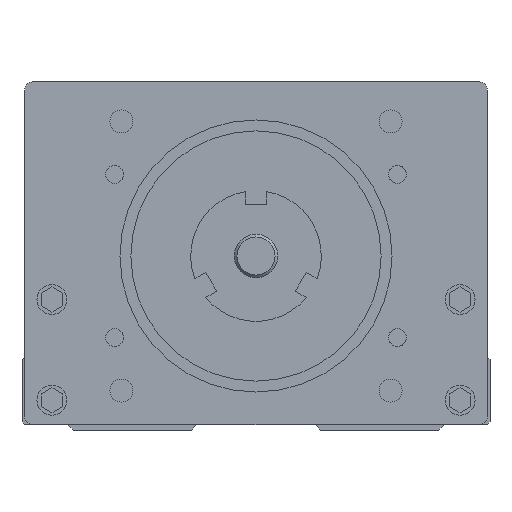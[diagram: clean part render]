
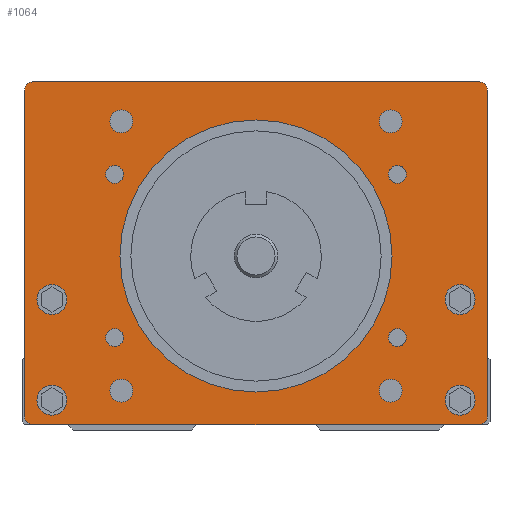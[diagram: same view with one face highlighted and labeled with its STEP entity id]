
A CAD part, front view. The second image highlights one B-rep face of the part: STEP entity #1064.
In plain terms, the highlighted planar face has unit normal (0, -1, 0).
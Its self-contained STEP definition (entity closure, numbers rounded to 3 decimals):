
#1064=ADVANCED_FACE('',(#2270,#2271,#2272,#2273,#2274,#2275,#2276,#2277,
#2278,#2279,#2280,#2281,#2282,#2283),#1575,.F.);
#1575=PLANE('',#9210);
#1914=CIRCLE('',#9182,1.5);
#1921=CIRCLE('',#9193,1.5);
#1922=CIRCLE('',#9195,1.5);
#1923=CIRCLE('',#9196,1.5);
#1924=CIRCLE('',#9197,2.75);
#1925=CIRCLE('',#9198,2.75);
#1926=CIRCLE('',#9199,2.75);
#1927=CIRCLE('',#9200,2.75);
#1928=CIRCLE('',#9201,25.);
#1929=CIRCLE('',#9202,1.65);
#1930=CIRCLE('',#9203,1.65);
#1931=CIRCLE('',#9204,1.65);
#1932=CIRCLE('',#9205,1.65);
#1933=CIRCLE('',#9206,2.1);
#1934=CIRCLE('',#9207,2.1);
#1935=CIRCLE('',#9208,2.1);
#1936=CIRCLE('',#9209,2.1);
#2270=FACE_BOUND('',#2702,.T.);
#2271=FACE_BOUND('',#2703,.T.);
#2272=FACE_BOUND('',#2704,.T.);
#2273=FACE_BOUND('',#2705,.T.);
#2274=FACE_BOUND('',#2706,.T.);
#2275=FACE_BOUND('',#2707,.T.);
#2276=FACE_BOUND('',#2708,.T.);
#2277=FACE_BOUND('',#2709,.T.);
#2278=FACE_BOUND('',#2710,.T.);
#2279=FACE_BOUND('',#2711,.T.);
#2280=FACE_BOUND('',#2712,.T.);
#2281=FACE_BOUND('',#2713,.T.);
#2282=FACE_BOUND('',#2714,.T.);
#2283=FACE_BOUND('',#2715,.T.);
#2702=EDGE_LOOP('',(#3761,#3762,#3763,#3764,#3765,#3766,#3767,#3768));
#2703=EDGE_LOOP('',(#3769));
#2704=EDGE_LOOP('',(#3770));
#2705=EDGE_LOOP('',(#3771));
#2706=EDGE_LOOP('',(#3772));
#2707=EDGE_LOOP('',(#3773));
#2708=EDGE_LOOP('',(#3774));
#2709=EDGE_LOOP('',(#3775));
#2710=EDGE_LOOP('',(#3776));
#2711=EDGE_LOOP('',(#3777));
#2712=EDGE_LOOP('',(#3778));
#2713=EDGE_LOOP('',(#3779));
#2714=EDGE_LOOP('',(#3780));
#2715=EDGE_LOOP('',(#3781));
#3761=ORIENTED_EDGE('',*,*,#6487,.T.);
#3762=ORIENTED_EDGE('',*,*,#6744,.F.);
#3763=ORIENTED_EDGE('',*,*,#6705,.T.);
#3764=ORIENTED_EDGE('',*,*,#6743,.F.);
#3765=ORIENTED_EDGE('',*,*,#6730,.T.);
#3766=ORIENTED_EDGE('',*,*,#6728,.F.);
#3767=ORIENTED_EDGE('',*,*,#6720,.T.);
#3768=ORIENTED_EDGE('',*,*,#6745,.F.);
#3769=ORIENTED_EDGE('',*,*,#6746,.F.);
#3770=ORIENTED_EDGE('',*,*,#6747,.F.);
#3771=ORIENTED_EDGE('',*,*,#6748,.F.);
#3772=ORIENTED_EDGE('',*,*,#6749,.F.);
#3773=ORIENTED_EDGE('',*,*,#6750,.F.);
#3774=ORIENTED_EDGE('',*,*,#6751,.F.);
#3775=ORIENTED_EDGE('',*,*,#6752,.F.);
#3776=ORIENTED_EDGE('',*,*,#6753,.F.);
#3777=ORIENTED_EDGE('',*,*,#6754,.F.);
#3778=ORIENTED_EDGE('',*,*,#6755,.F.);
#3779=ORIENTED_EDGE('',*,*,#6756,.F.);
#3780=ORIENTED_EDGE('',*,*,#6757,.F.);
#3781=ORIENTED_EDGE('',*,*,#6758,.F.);
#5686=VERTEX_POINT('',#12609);
#5687=VERTEX_POINT('',#12611);
#5852=VERTEX_POINT('',#13106);
#5853=VERTEX_POINT('',#13108);
#5866=VERTEX_POINT('',#13138);
#5867=VERTEX_POINT('',#13140);
#5871=VERTEX_POINT('',#13156);
#5872=VERTEX_POINT('',#13160);
#5882=VERTEX_POINT('',#13190);
#5883=VERTEX_POINT('',#13192);
#5884=VERTEX_POINT('',#13194);
#5885=VERTEX_POINT('',#13196);
#5886=VERTEX_POINT('',#13198);
#5887=VERTEX_POINT('',#13200);
#5888=VERTEX_POINT('',#13202);
#5889=VERTEX_POINT('',#13204);
#5890=VERTEX_POINT('',#13206);
#5891=VERTEX_POINT('',#13208);
#5892=VERTEX_POINT('',#13210);
#5893=VERTEX_POINT('',#13212);
#5894=VERTEX_POINT('',#13214);
#6487=EDGE_CURVE('',#5687,#5686,#7632,.T.);
#6705=EDGE_CURVE('',#5853,#5852,#7772,.T.);
#6720=EDGE_CURVE('',#5867,#5866,#7783,.T.);
#6728=EDGE_CURVE('',#5867,#5871,#1914,.T.);
#6730=EDGE_CURVE('',#5872,#5871,#7788,.T.);
#6743=EDGE_CURVE('',#5872,#5852,#1921,.T.);
#6744=EDGE_CURVE('',#5853,#5686,#1922,.T.);
#6745=EDGE_CURVE('',#5687,#5866,#1923,.T.);
#6746=EDGE_CURVE('',#5882,#5882,#1924,.T.);
#6747=EDGE_CURVE('',#5883,#5883,#1925,.T.);
#6748=EDGE_CURVE('',#5884,#5884,#1926,.T.);
#6749=EDGE_CURVE('',#5885,#5885,#1927,.T.);
#6750=EDGE_CURVE('',#5886,#5886,#1928,.T.);
#6751=EDGE_CURVE('',#5887,#5887,#1929,.T.);
#6752=EDGE_CURVE('',#5888,#5888,#1930,.T.);
#6753=EDGE_CURVE('',#5889,#5889,#1931,.T.);
#6754=EDGE_CURVE('',#5890,#5890,#1932,.T.);
#6755=EDGE_CURVE('',#5891,#5891,#1933,.T.);
#6756=EDGE_CURVE('',#5892,#5892,#1934,.T.);
#6757=EDGE_CURVE('',#5893,#5893,#1935,.T.);
#6758=EDGE_CURVE('',#5894,#5894,#1936,.T.);
#7632=LINE('',#12610,#8359);
#7772=LINE('',#13107,#8499);
#7783=LINE('',#13139,#8510);
#7788=LINE('',#13159,#8515);
#8359=VECTOR('',#10014,1.);
#8499=VECTOR('',#10360,1.);
#8510=VECTOR('',#10385,1.);
#8515=VECTOR('',#10410,1.);
#9182=AXIS2_PLACEMENT_3D('',#13155,#10405,#10406);
#9193=AXIS2_PLACEMENT_3D('',#13185,#10435,#10436);
#9195=AXIS2_PLACEMENT_3D('',#13187,#10439,#10440);
#9196=AXIS2_PLACEMENT_3D('',#13188,#10441,#10442);
#9197=AXIS2_PLACEMENT_3D('',#13189,#10443,#10444);
#9198=AXIS2_PLACEMENT_3D('',#13191,#10445,#10446);
#9199=AXIS2_PLACEMENT_3D('',#13193,#10447,#10448);
#9200=AXIS2_PLACEMENT_3D('',#13195,#10449,#10450);
#9201=AXIS2_PLACEMENT_3D('',#13197,#10451,#10452);
#9202=AXIS2_PLACEMENT_3D('',#13199,#10453,#10454);
#9203=AXIS2_PLACEMENT_3D('',#13201,#10455,#10456);
#9204=AXIS2_PLACEMENT_3D('',#13203,#10457,#10458);
#9205=AXIS2_PLACEMENT_3D('',#13205,#10459,#10460);
#9206=AXIS2_PLACEMENT_3D('',#13207,#10461,#10462);
#9207=AXIS2_PLACEMENT_3D('',#13209,#10463,#10464);
#9208=AXIS2_PLACEMENT_3D('',#13211,#10465,#10466);
#9209=AXIS2_PLACEMENT_3D('',#13213,#10467,#10468);
#9210=AXIS2_PLACEMENT_3D('',#13215,#10469,#10470);
#10014=DIRECTION('',(1.,0.,0.));
#10360=DIRECTION('',(0.,0.,1.));
#10385=DIRECTION('',(0.,0.,-1.));
#10405=DIRECTION('',(0.,1.,0.));
#10406=DIRECTION('',(-1.,0.,0.));
#10410=DIRECTION('',(-1.,0.,0.));
#10435=DIRECTION('',(0.,1.,0.));
#10436=DIRECTION('',(0.,0.,1.));
#10439=DIRECTION('',(0.,1.,0.));
#10440=DIRECTION('',(1.,0.,0.));
#10441=DIRECTION('',(0.,1.,0.));
#10442=DIRECTION('',(0.,0.,-1.));
#10443=DIRECTION('',(0.,-1.,0.));
#10444=DIRECTION('',(0.,0.,1.));
#10445=DIRECTION('',(0.,-1.,0.));
#10446=DIRECTION('',(0.,0.,1.));
#10447=DIRECTION('',(0.,-1.,0.));
#10448=DIRECTION('',(0.,0.,1.));
#10449=DIRECTION('',(0.,-1.,0.));
#10450=DIRECTION('',(0.,0.,1.));
#10451=DIRECTION('',(0.,-1.,0.));
#10452=DIRECTION('',(1.,0.,0.));
#10453=DIRECTION('',(0.,-1.,0.));
#10454=DIRECTION('',(1.,0.,0.));
#10455=DIRECTION('',(0.,-1.,0.));
#10456=DIRECTION('',(1.,0.,0.));
#10457=DIRECTION('',(0.,-1.,0.));
#10458=DIRECTION('',(1.,0.,0.));
#10459=DIRECTION('',(0.,-1.,0.));
#10460=DIRECTION('',(1.,0.,0.));
#10461=DIRECTION('',(0.,-1.,0.));
#10462=DIRECTION('',(1.,0.,0.));
#10463=DIRECTION('',(0.,-1.,0.));
#10464=DIRECTION('',(1.,0.,0.));
#10465=DIRECTION('',(0.,-1.,0.));
#10466=DIRECTION('',(1.,0.,0.));
#10467=DIRECTION('',(0.,-1.,0.));
#10468=DIRECTION('',(1.,0.,0.));
#10469=DIRECTION('',(0.,1.,0.));
#10470=DIRECTION('',(1.,0.,0.));
#12609=CARTESIAN_POINT('',(41.,50.,0.));
#12610=CARTESIAN_POINT('',(-41.,50.,0.));
#12611=CARTESIAN_POINT('',(-41.,50.,0.));
#13106=CARTESIAN_POINT('',(42.5,50.,61.5));
#13107=CARTESIAN_POINT('',(42.5,50.,1.5));
#13108=CARTESIAN_POINT('',(42.5,50.,1.5));
#13138=CARTESIAN_POINT('',(-42.5,50.,1.5));
#13139=CARTESIAN_POINT('',(-42.5,50.,61.5));
#13140=CARTESIAN_POINT('',(-42.5,50.,61.5));
#13155=CARTESIAN_POINT('',(-41.,50.,61.5));
#13156=CARTESIAN_POINT('',(-41.,50.,63.));
#13159=CARTESIAN_POINT('',(41.,50.,63.));
#13160=CARTESIAN_POINT('',(41.,50.,63.));
#13185=CARTESIAN_POINT('',(41.,50.,61.5));
#13187=CARTESIAN_POINT('',(41.,50.,1.5));
#13188=CARTESIAN_POINT('',(-41.,50.,1.5));
#13189=CARTESIAN_POINT('',(37.5,50.,4.5));
#13190=CARTESIAN_POINT('',(37.5,50.,7.25));
#13191=CARTESIAN_POINT('',(37.5,50.,23.));
#13192=CARTESIAN_POINT('',(37.5,50.,25.75));
#13193=CARTESIAN_POINT('',(-37.5,50.,23.));
#13194=CARTESIAN_POINT('',(-37.5,50.,25.75));
#13195=CARTESIAN_POINT('',(-37.5,50.,4.5));
#13196=CARTESIAN_POINT('',(-37.5,50.,7.25));
#13197=CARTESIAN_POINT('',(0.,50.,31.));
#13198=CARTESIAN_POINT('',(25.,50.,31.));
#13199=CARTESIAN_POINT('',(-25.981,50.,46.));
#13200=CARTESIAN_POINT('',(-24.331,50.,46.));
#13201=CARTESIAN_POINT('',(-25.981,50.,16.));
#13202=CARTESIAN_POINT('',(-24.331,50.,16.));
#13203=CARTESIAN_POINT('',(25.981,50.,16.));
#13204=CARTESIAN_POINT('',(27.631,50.,16.));
#13205=CARTESIAN_POINT('',(25.981,50.,46.));
#13206=CARTESIAN_POINT('',(27.631,50.,46.));
#13207=CARTESIAN_POINT('',(24.749,50.,55.749));
#13208=CARTESIAN_POINT('',(26.849,50.,55.749));
#13209=CARTESIAN_POINT('',(24.749,50.,6.251));
#13210=CARTESIAN_POINT('',(26.849,50.,6.251));
#13211=CARTESIAN_POINT('',(-24.749,50.,6.251));
#13212=CARTESIAN_POINT('',(-22.649,50.,6.251));
#13213=CARTESIAN_POINT('',(-24.749,50.,55.749));
#13214=CARTESIAN_POINT('',(-22.649,50.,55.749));
#13215=CARTESIAN_POINT('',(0.,50.,31.));
